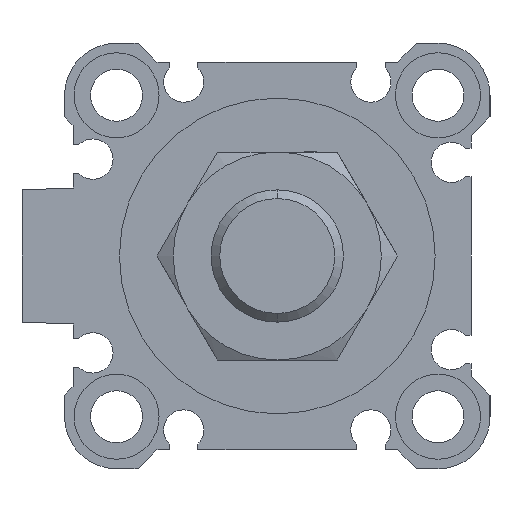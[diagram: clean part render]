
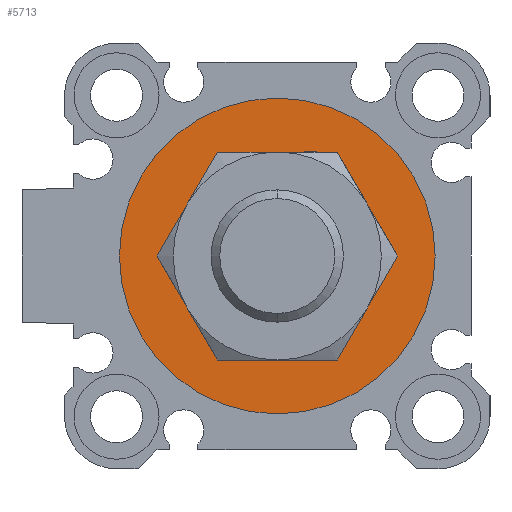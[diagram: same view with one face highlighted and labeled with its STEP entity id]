
A CAD part, left-side view. The second image highlights one B-rep face of the part: STEP entity #5713.
In plain terms, the highlighted planar face has unit normal (-1, 0, 0).
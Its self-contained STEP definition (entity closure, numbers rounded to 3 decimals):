
#22 = AXIS2_PLACEMENT_3D ( 'NONE', #5426, #4821, #3831 ) ;
#214 = AXIS2_PLACEMENT_3D ( 'NONE', #3191, #5879, #1961 ) ;
#306 = EDGE_LOOP ( 'NONE', ( #4782, #4732 ) ) ;
#355 = DIRECTION ( 'NONE',  ( 0., 0., -1. ) ) ;
#368 = PLANE ( 'NONE',  #3829 ) ;
#632 = EDGE_LOOP ( 'NONE', ( #4204, #1008 ) ) ;
#711 = EDGE_CURVE ( 'NONE', #2723, #3305, #5004, .T. ) ;
#1004 = FACE_BOUND ( 'NONE', #306, .T. ) ;
#1008 = ORIENTED_EDGE ( 'NONE', *, *, #3226, .F. ) ;
#1201 = DIRECTION ( 'NONE',  ( 0., 0., -1. ) ) ;
#1780 = VERTEX_POINT ( 'NONE', #5273 ) ;
#1918 = CARTESIAN_POINT ( 'NONE',  ( 2.1, 0., 0. ) ) ;
#1961 = DIRECTION ( 'NONE',  ( 0., 0., -1. ) ) ;
#2335 = DIRECTION ( 'NONE',  ( 1., 0., 0. ) ) ;
#2336 = CIRCLE ( 'NONE', #6310, 16.7 ) ;
#2425 = CARTESIAN_POINT ( 'NONE',  ( 2.1, 0., 10.5 ) ) ;
#2560 = CARTESIAN_POINT ( 'NONE',  ( 2.1, 0., 0. ) ) ;
#2723 = VERTEX_POINT ( 'NONE', #2425 ) ;
#3169 = DIRECTION ( 'NONE',  ( 1., 0., 0. ) ) ;
#3191 = CARTESIAN_POINT ( 'NONE',  ( 2.1, 0., 0. ) ) ;
#3226 = EDGE_CURVE ( 'NONE', #6263, #1780, #5533, .T. ) ;
#3305 = VERTEX_POINT ( 'NONE', #5144 ) ;
#3775 = EDGE_CURVE ( 'NONE', #3305, #2723, #5422, .T. ) ;
#3829 = AXIS2_PLACEMENT_3D ( 'NONE', #2560, #3169, #5889 ) ;
#3831 = DIRECTION ( 'NONE',  ( 0., 0., -1. ) ) ;
#4204 = ORIENTED_EDGE ( 'NONE', *, *, #5224, .F. ) ;
#4322 = CARTESIAN_POINT ( 'NONE',  ( 2.1, 0., -16.7 ) ) ;
#4512 = AXIS2_PLACEMENT_3D ( 'NONE', #1918, #4709, #355 ) ;
#4709 = DIRECTION ( 'NONE',  ( 1., 0., 0. ) ) ;
#4732 = ORIENTED_EDGE ( 'NONE', *, *, #3775, .T. ) ;
#4782 = ORIENTED_EDGE ( 'NONE', *, *, #711, .T. ) ;
#4821 = DIRECTION ( 'NONE',  ( 1., 0., 0. ) ) ;
#5004 = CIRCLE ( 'NONE', #22, 10.5 ) ;
#5144 = CARTESIAN_POINT ( 'NONE',  ( 2.1, 0., -10.5 ) ) ;
#5216 = FACE_OUTER_BOUND ( 'NONE', #632, .T. ) ;
#5224 = EDGE_CURVE ( 'NONE', #1780, #6263, #2336, .T. ) ;
#5273 = CARTESIAN_POINT ( 'NONE',  ( 2.1, 0., 16.7 ) ) ;
#5422 = CIRCLE ( 'NONE', #4512, 10.5 ) ;
#5426 = CARTESIAN_POINT ( 'NONE',  ( 2.1, 0., 0. ) ) ;
#5533 = CIRCLE ( 'NONE', #214, 16.7 ) ;
#5713 = ADVANCED_FACE ( 'NONE', ( #5216, #1004 ), #368, .F. ) ;
#5879 = DIRECTION ( 'NONE',  ( 1., 0., 0. ) ) ;
#5889 = DIRECTION ( 'NONE',  ( 0., 1., 0. ) ) ;
#6263 = VERTEX_POINT ( 'NONE', #4322 ) ;
#6310 = AXIS2_PLACEMENT_3D ( 'NONE', #6695, #2335, #1201 ) ;
#6695 = CARTESIAN_POINT ( 'NONE',  ( 2.1, 0., 0. ) ) ;
